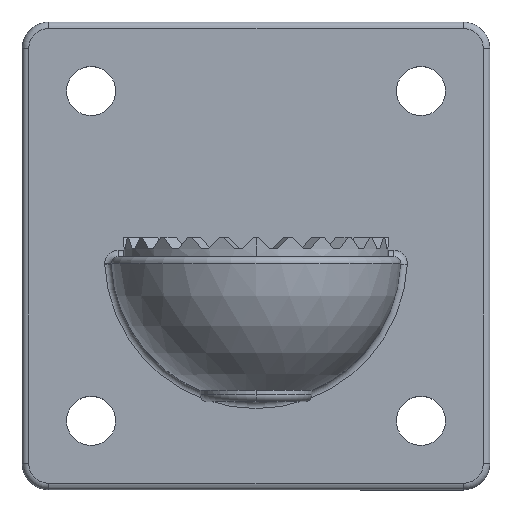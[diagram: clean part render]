
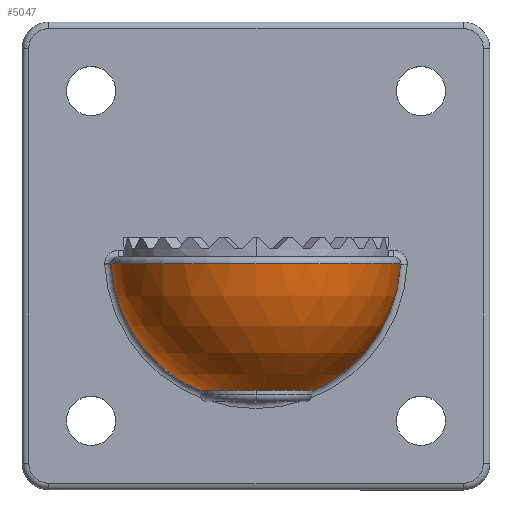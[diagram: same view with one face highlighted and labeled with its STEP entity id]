
A CAD part, top view. The second image highlights one B-rep face of the part: STEP entity #5047.
In plain terms, the highlighted spherical face has radius 32.5 mm.
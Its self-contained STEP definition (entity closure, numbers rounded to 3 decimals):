
#298 = CIRCLE ( 'NONE', #3311, 32.462 ) ;
#360 = ORIENTED_EDGE ( 'NONE', *, *, #3680, .T. ) ;
#479 = CIRCLE ( 'NONE', #3233, 32.5 ) ;
#542 = DIRECTION ( 'NONE',  ( 1., 0., 0. ) ) ;
#777 = EDGE_CURVE ( 'NONE', #2316, #894, #5162, .T. ) ;
#799 = CARTESIAN_POINT ( 'NONE',  ( 0., -1.823, 52. ) ) ;
#894 = VERTEX_POINT ( 'NONE', #4778 ) ;
#908 = DIRECTION ( 'NONE',  ( 0., 0., 1. ) ) ;
#1229 = CARTESIAN_POINT ( 'NONE',  ( 0., -30.25, 64.5 ) ) ;
#1252 = SPHERICAL_SURFACE ( 'NONE', #4502, 32.5 ) ;
#1319 = CARTESIAN_POINT ( 'NONE',  ( 32.462, -1.823, 52. ) ) ;
#1345 = CIRCLE ( 'NONE', #3409, 32.5 ) ;
#1401 = DIRECTION ( 'NONE',  ( 0., 0., 1. ) ) ;
#1439 = VERTEX_POINT ( 'NONE', #1319 ) ;
#1588 = ORIENTED_EDGE ( 'NONE', *, *, #3934, .T. ) ;
#1872 = ORIENTED_EDGE ( 'NONE', *, *, #4732, .T. ) ;
#2060 = FACE_OUTER_BOUND ( 'NONE', #4647, .T. ) ;
#2256 = DIRECTION ( 'NONE',  ( 0., 1., 0. ) ) ;
#2283 = DIRECTION ( 'NONE',  ( 0., 0., 1. ) ) ;
#2316 = VERTEX_POINT ( 'NONE', #1229 ) ;
#2618 = ORIENTED_EDGE ( 'NONE', *, *, #3048, .T. ) ;
#2838 = DIRECTION ( 'NONE',  ( 0., 0., 1. ) ) ;
#3000 = CARTESIAN_POINT ( 'NONE',  ( -12.5, -30.25, 52. ) ) ;
#3048 = EDGE_CURVE ( 'NONE', #5143, #2316, #5259, .T. ) ;
#3130 = AXIS2_PLACEMENT_3D ( 'NONE', #3510, #2256, #2283 ) ;
#3233 = AXIS2_PLACEMENT_3D ( 'NONE', #5060, #1401, #3840 ) ;
#3311 = AXIS2_PLACEMENT_3D ( 'NONE', #799, #3781, #908 ) ;
#3409 = AXIS2_PLACEMENT_3D ( 'NONE', #4538, #4190, #542 ) ;
#3510 = CARTESIAN_POINT ( 'NONE',  ( 0., -30.25, 52. ) ) ;
#3562 = VERTEX_POINT ( 'NONE', #4532 ) ;
#3680 = EDGE_CURVE ( 'NONE', #3562, #5143, #479, .T. ) ;
#3781 = DIRECTION ( 'NONE',  ( 0., -1., 0. ) ) ;
#3840 = DIRECTION ( 'NONE',  ( 1., 0., 0. ) ) ;
#3934 = EDGE_CURVE ( 'NONE', #894, #1439, #1345, .T. ) ;
#4033 = DIRECTION ( 'NONE',  ( 0., -1., 0. ) ) ;
#4062 = CARTESIAN_POINT ( 'NONE',  ( 0., -0.25, 52. ) ) ;
#4190 = DIRECTION ( 'NONE',  ( 0., 0., 1. ) ) ;
#4325 = AXIS2_PLACEMENT_3D ( 'NONE', #5229, #4776, #2838 ) ;
#4502 = AXIS2_PLACEMENT_3D ( 'NONE', #4062, #4033, #4517 ) ;
#4517 = DIRECTION ( 'NONE',  ( 0., 0., 1. ) ) ;
#4532 = CARTESIAN_POINT ( 'NONE',  ( -32.462, -1.823, 52. ) ) ;
#4538 = CARTESIAN_POINT ( 'NONE',  ( 0., -0.25, 52. ) ) ;
#4647 = EDGE_LOOP ( 'NONE', ( #1588, #1872, #360, #2618, #4881 ) ) ;
#4732 = EDGE_CURVE ( 'NONE', #1439, #3562, #298, .T. ) ;
#4776 = DIRECTION ( 'NONE',  ( 0., 1., 0. ) ) ;
#4778 = CARTESIAN_POINT ( 'NONE',  ( 12.5, -30.25, 52. ) ) ;
#4881 = ORIENTED_EDGE ( 'NONE', *, *, #777, .T. ) ;
#5047 = ADVANCED_FACE ( 'NONE', ( #2060 ), #1252, .T. ) ;
#5060 = CARTESIAN_POINT ( 'NONE',  ( 0., -0.25, 52. ) ) ;
#5143 = VERTEX_POINT ( 'NONE', #3000 ) ;
#5162 = CIRCLE ( 'NONE', #3130, 12.5 ) ;
#5229 = CARTESIAN_POINT ( 'NONE',  ( 0., -30.25, 52. ) ) ;
#5259 = CIRCLE ( 'NONE', #4325, 12.5 ) ;
